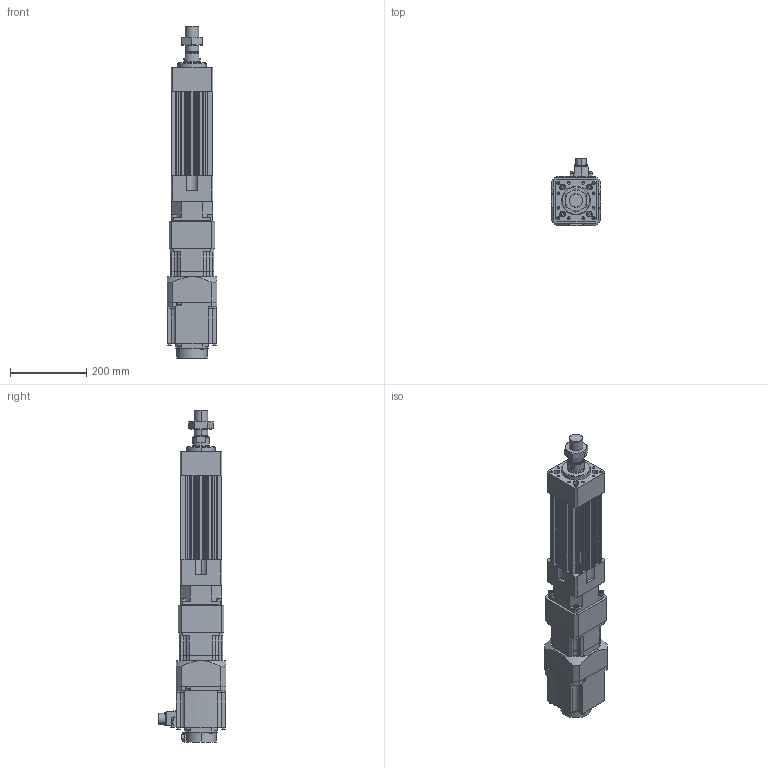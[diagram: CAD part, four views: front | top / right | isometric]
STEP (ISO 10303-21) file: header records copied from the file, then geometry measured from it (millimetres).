
FILE_DESCRIPTION (( 'STEP AP203' ), '1' );
FILE_NAME ('HES110NS(HS)-S050-W015G00-M.STEP', '2023-01-27T09:24:28', ( 'tms' ), ( '' ), 'SwSTEP 2.0', 'SolidWorks 2013', '' );
FILE_SCHEMA (( 'CONFIG_CONTROL_DESIGN' ));
Length unit declared in the file: millimetre
Products named in the file (8): HES110-S050-G120; P0401400706; HES110NS(HS)-S050-W015G00-M; AB1151; HG-SR152; HES110 ROD M ST050; AB115-003[HG-SR152]; M36X1.5P
Assembly tree (7 placements, depth 3):
  HES110NS(HS)-S050-W015G00-M
    HES110-S050-G120
    HES110 ROD M ST050
    M36X1.5P
    AB115-003[HG-SR152]
      AB1151
      P0401400706
    HG-SR152
Bounding box: 130 x 177.49 x 871.5 mm (x, y, z)
Volume: 5603400.4 mm3; surface area: 730762.5 mm2
Topology: 4 solids, 15 shells, 1202 faces, 3026 edges, 1951 vertices
Faces by surface type: plane 551, cylinder 537, cone 102, bspline 8, torus 4
Entity records: 37654 total; most frequent: CARTESIAN_POINT 7134, DIRECTION 6533, ORIENTED_EDGE 5960, EDGE_CURVE 2990, AXIS2_PLACEMENT_3D 2410, VERTEX_POINT 1951, LINE 1713, VECTOR 1713
